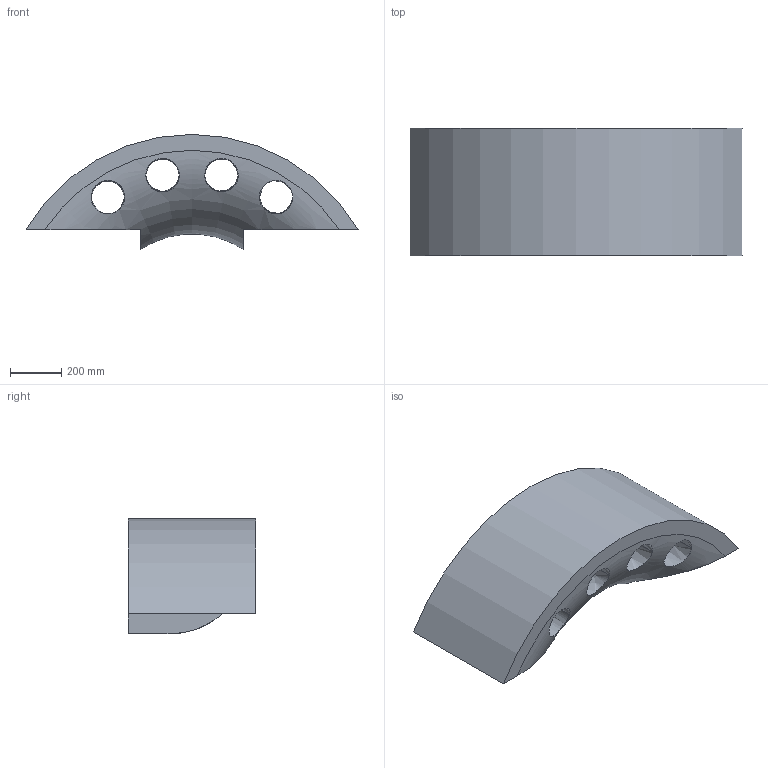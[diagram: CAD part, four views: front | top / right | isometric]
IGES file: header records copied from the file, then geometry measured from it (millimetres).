
Start section:  PTC IGES file: bpb_rear_plate_af0.igs
Global section: file name: bpb_rear_plate_af0.igs; native system: Pro/ENGINEER by Parametric Technology Corporation; preprocessor: 1999260; author: oshatz; organization: Unknown; date: 000922.101835; units: millimetre
Bounding box: 1290.94 x 495 x 447.7 mm (x, y, z)
Surface area: 2836378.5 mm2 (no closed solid volume)
Topology: 0 solids, 0 shells, 29 faces, 162 edges, 162 vertices
Faces by surface type: revolution 15, bspline 14
